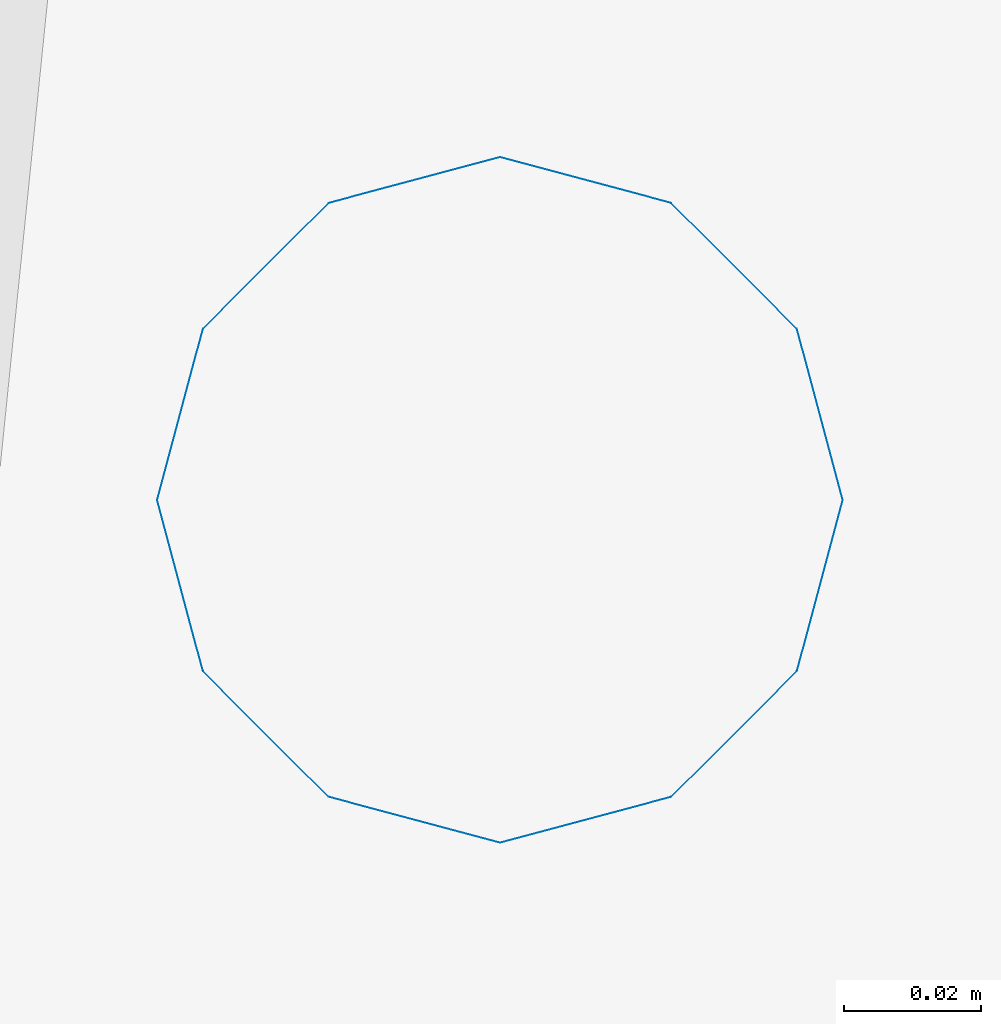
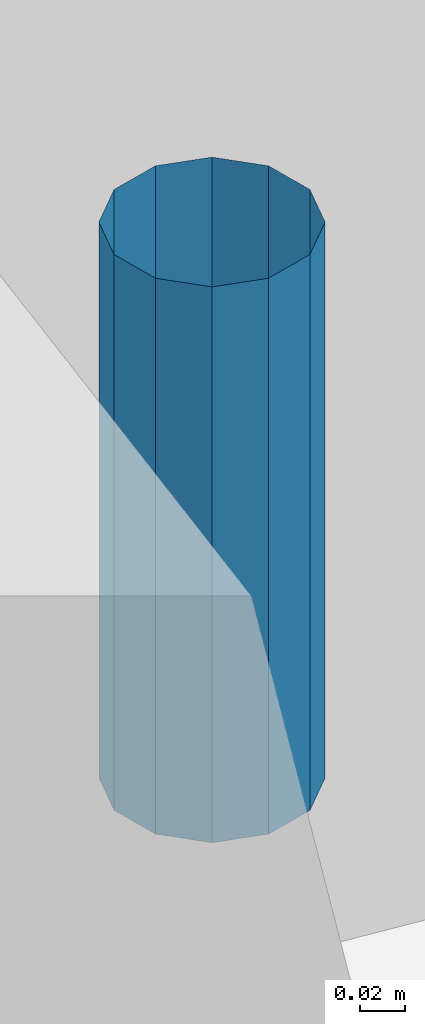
# One storey, part 37 of 41: 1 discrete accessory.
"""IFC2X3 building model written with IfcOpenShell, lengths in millimetres."""

from ifc_helpers import new_model, entity, si_unit, converted_unit, derived_unit, money_unit, direction, frame, origin_with_axes, place, context, subcontext, project, spatial, open_shell, surface_model, type_object, element, save


model = new_model("IFC2X3")

# Units and contexts
model_context = context("Model", 3, precision=0.01, world=origin_with_axes(), true_north=direction((0.0, 1.0)))
body_context = subcontext(model_context, "Body", "Model", "MODEL_VIEW")
ifc_project = project(units=[si_unit("LENGTHUNIT", "METRE", prefix="MILLI"), si_unit("AREAUNIT", "SQUARE_METRE"), si_unit("VOLUMEUNIT", "CUBIC_METRE"), converted_unit("PLANEANGLEUNIT", "DEGREE", entity("IfcPlaneAngleMeasure", 0.0174532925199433), si_unit("PLANEANGLEUNIT", "RADIAN"), dimensions=[0, 0, 0, 0, 0, 0, 0]), money_unit("USD"), converted_unit("TIMEUNIT", "Year", entity("IfcTimeMeasure", 31557600.0), si_unit("TIMEUNIT", "SECOND"), dimensions=[0, 0, 1, 0, 0, 0, 0]), si_unit("MASSUNIT", "GRAM", prefix="KILO"), si_unit("THERMODYNAMICTEMPERATUREUNIT", "DEGREE_CELSIUS"), si_unit("LUMINOUSINTENSITYUNIT", "LUMEN"), si_unit("ENERGYUNIT", "JOULE", prefix="MEGA"), derived_unit("THERMALCONDUCTANCEUNIT", [(si_unit("POWERUNIT", "WATT"), 1), (si_unit("LENGTHUNIT", "METRE"), -1), (si_unit("THERMODYNAMICTEMPERATUREUNIT", "KELVIN"), -1)]), derived_unit("SPECIFICHEATCAPACITYUNIT", [(si_unit("ENERGYUNIT", "JOULE"), 1), (si_unit("MASSUNIT", "GRAM", prefix="KILO"), -1), (si_unit("THERMODYNAMICTEMPERATUREUNIT", "KELVIN"), -1)]), derived_unit("MASSDENSITYUNIT", [(si_unit("MASSUNIT", "GRAM", prefix="KILO"), 1), (si_unit("VOLUMEUNIT", "CUBIC_METRE"), -1)])], contexts=[model_context])

# Site, building, storey
site_placement = place(None, origin_with_axes())
site = spatial("IfcSite", under=ifc_project, at=site_placement, Name="Site", CompositionType="ELEMENT")
building_placement = place(site_placement, origin_with_axes())
building = spatial("IfcBuilding", under=site, at=building_placement, Name="Bâtiment", CompositionType="ELEMENT")
storey_placement = place(building_placement, origin_with_axes())
storey = spatial("IfcBuildingStorey", under=building, at=storey_placement, Name="sousol", CompositionType="ELEMENT", Elevation=0.0)

# Discrete accessory
discrete_accessory_type = type_object("IfcDiscreteAccessoryType", Name="Tuyau descente 27")
discrete_accessory_placement = place(storey_placement, frame((2224972.696895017, -617760.226451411, 2700.0), z_axis=(0.0, 0.0, 1.0), x_axis=(1.0, 0.0, 0.0)))
element("IfcDiscreteAccessory", 1, at=discrete_accessory_placement, inside=storey, type_object=discrete_accessory_type, Name="Obj.-318", context=body_context, shape_type="SurfaceModel", body=[
    surface_model("IfcShellBasedSurfaceModel", [(50.0, -526.4782429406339, 300.0), (43.30127018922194, -551.4782429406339, 300.0), (43.30127018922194, -551.4782429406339, 0.0), (50.0, -526.4782429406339, 0.0), (25.00000000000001, -569.7795131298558, 300.0), (25.00000000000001, -569.7795131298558, 0.0), (43.30127018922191, -501.4782429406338, 300.0), (43.30127018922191, -501.4782429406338, 0.0), (0.0, -576.4782429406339, 300.0), (0.0, -576.4782429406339, 0.0), (24.99999999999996, -483.1769727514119, 300.0), (24.99999999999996, -483.1769727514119, 0.0), (-24.99999999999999, -569.7795131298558, 300.0), (-24.99999999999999, -569.7795131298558, 0.0), (0.0, -476.4782429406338, 300.0), (0.0, -476.4782429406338, 0.0), (-43.30127018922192, -551.4782429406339, 300.0), (-43.30127018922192, -551.4782429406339, 0.0), (-25.00000000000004, -483.1769727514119, 300.0), (-25.00000000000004, -483.1769727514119, 0.0), (-50.0, -526.4782429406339, 300.0), (-50.0, -526.4782429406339, 0.0), (-43.30127018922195, -501.4782429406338, 300.0), (-43.30127018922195, -501.4782429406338, 0.0)], [open_shell([[[0, 1, 2, 3]], [[1, 4, 5, 2]], [[6, 0, 3, 7]], [[4, 8, 9, 5]], [[10, 6, 7, 11]], [[8, 12, 13, 9]], [[14, 10, 11, 15]], [[12, 16, 17, 13]], [[18, 14, 15, 19]], [[16, 20, 21, 17]], [[22, 18, 19, 23]], [[20, 22, 23, 21]]])]),
])

save(model, "model.ifc")
